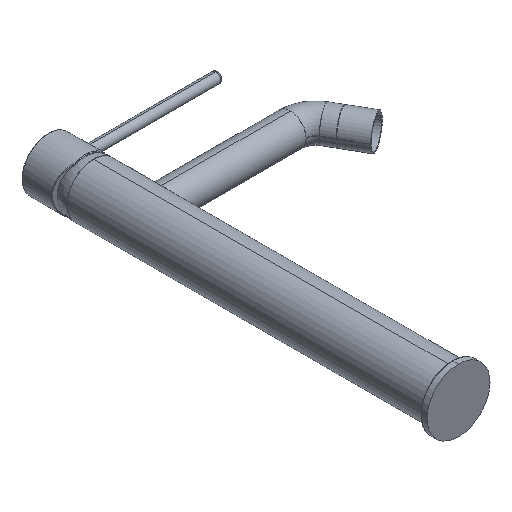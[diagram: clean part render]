
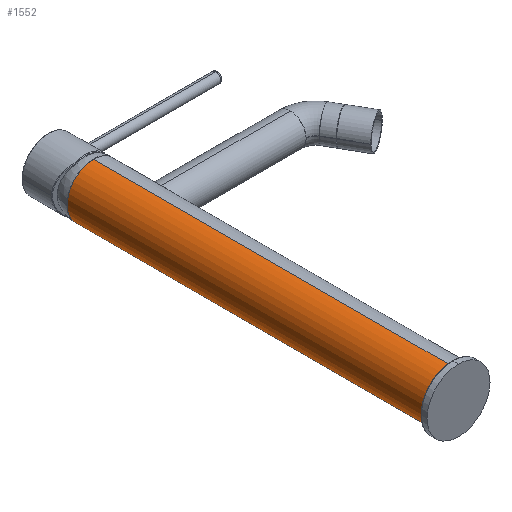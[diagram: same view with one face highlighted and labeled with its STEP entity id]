
A CAD part, isometric view. The second image highlights one B-rep face of the part: STEP entity #1552.
In plain terms, the highlighted cylindrical face has radius 21 mm (diameter 42 mm), a partial arc.
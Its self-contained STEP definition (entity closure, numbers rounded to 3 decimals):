
#57 = EDGE_CURVE ( 'NONE', #3765, #6428, #704, .T. ) ;
#199 = CARTESIAN_POINT ( 'NONE',  ( 0., 0., 21. ) ) ;
#313 = DIRECTION ( 'NONE',  ( 0., -1., 0. ) ) ;
#327 = CIRCLE ( 'NONE', #3249, 21. ) ;
#350 = ORIENTED_EDGE ( 'NONE', *, *, #1433, .T. ) ;
#662 = CARTESIAN_POINT ( 'NONE',  ( 0., 289.4, -21. ) ) ;
#704 = LINE ( 'NONE', #199, #1942 ) ;
#706 = EDGE_CURVE ( 'NONE', #4411, #4359, #2007, .T. ) ;
#734 = DIRECTION ( 'NONE',  ( 0., 0., -1. ) ) ;
#769 = CARTESIAN_POINT ( 'NONE',  ( 0., 0., 0. ) ) ;
#947 = CARTESIAN_POINT ( 'NONE',  ( 0., 7.5, -21. ) ) ;
#1322 = ORIENTED_EDGE ( 'NONE', *, *, #57, .F. ) ;
#1370 = DIRECTION ( 'NONE',  ( 0., 1., 0. ) ) ;
#1433 = EDGE_CURVE ( 'NONE', #3765, #4411, #327, .T. ) ;
#1526 = ORIENTED_EDGE ( 'NONE', *, *, #3780, .T. ) ;
#1552 = ADVANCED_FACE ( 'NONE', ( #3337 ), #3401, .T. ) ;
#1720 = DIRECTION ( 'NONE',  ( 0., -1., 0. ) ) ;
#1942 = VECTOR ( 'NONE', #3724, 1000. ) ;
#2007 = LINE ( 'NONE', #2909, #4882 ) ;
#2020 = DIRECTION ( 'NONE',  ( 0., 0., 1. ) ) ;
#2315 = DIRECTION ( 'NONE',  ( 0., -1., 0. ) ) ;
#2909 = CARTESIAN_POINT ( 'NONE',  ( 0., 0., -21. ) ) ;
#3249 = AXIS2_PLACEMENT_3D ( 'NONE', #6384, #1720, #734 ) ;
#3337 = FACE_OUTER_BOUND ( 'NONE', #5845, .T. ) ;
#3401 = CYLINDRICAL_SURFACE ( 'NONE', #6627, 21. ) ;
#3432 = CARTESIAN_POINT ( 'NONE',  ( 0., 7.5, 21. ) ) ;
#3724 = DIRECTION ( 'NONE',  ( 0., -1., 0. ) ) ;
#3747 = AXIS2_PLACEMENT_3D ( 'NONE', #6550, #1370, #2020 ) ;
#3765 = VERTEX_POINT ( 'NONE', #6691 ) ;
#3780 = EDGE_CURVE ( 'NONE', #4359, #6428, #6027, .T. ) ;
#3783 = ORIENTED_EDGE ( 'NONE', *, *, #706, .T. ) ;
#4359 = VERTEX_POINT ( 'NONE', #947 ) ;
#4411 = VERTEX_POINT ( 'NONE', #662 ) ;
#4882 = VECTOR ( 'NONE', #313, 1000. ) ;
#5015 = DIRECTION ( 'NONE',  ( 0., 0., -1. ) ) ;
#5845 = EDGE_LOOP ( 'NONE', ( #1322, #350, #3783, #1526 ) ) ;
#6027 = CIRCLE ( 'NONE', #3747, 21. ) ;
#6384 = CARTESIAN_POINT ( 'NONE',  ( 0., 289.4, 0. ) ) ;
#6428 = VERTEX_POINT ( 'NONE', #3432 ) ;
#6550 = CARTESIAN_POINT ( 'NONE',  ( 0., 7.5, 0. ) ) ;
#6627 = AXIS2_PLACEMENT_3D ( 'NONE', #769, #2315, #5015 ) ;
#6691 = CARTESIAN_POINT ( 'NONE',  ( 0., 289.4, 21. ) ) ;
